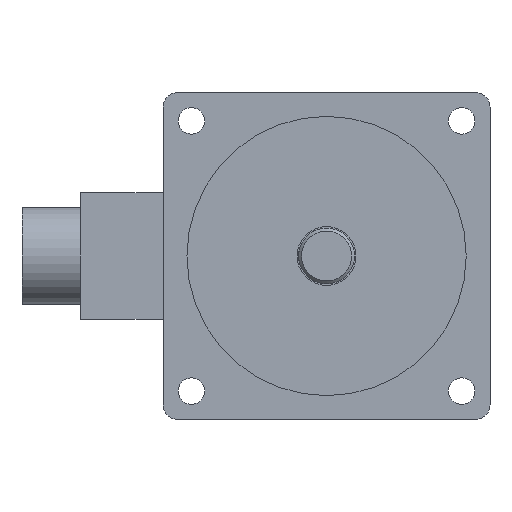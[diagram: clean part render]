
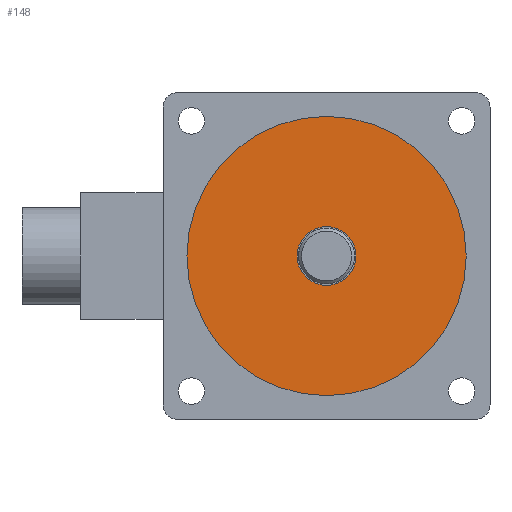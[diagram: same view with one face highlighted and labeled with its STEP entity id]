
A CAD part, left-side view. The second image highlights one B-rep face of the part: STEP entity #148.
In plain terms, the highlighted planar face has unit normal (-1, 0, 0).
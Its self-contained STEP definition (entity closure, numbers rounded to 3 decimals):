
#148=ADVANCED_FACE('',(#660,#662),#664,.T.);
#660=FACE_BOUND('',#661,.T.);
#661=EDGE_LOOP('',(#1071));
#662=FACE_BOUND('',#663,.T.);
#663=EDGE_LOOP('',(#1072));
#664=PLANE('',#665);
#665=AXIS2_PLACEMENT_3D('',#666,#667,#668);
#666=CARTESIAN_POINT('',(-5.,0.,0.));
#667=DIRECTION('',(-1.,-0.,-0.));
#668=DIRECTION('',(0.,0.,-1.));
#1071=ORIENTED_EDGE('',*,*,#1321,.T.);
#1072=ORIENTED_EDGE('',*,*,#1320,.F.);
#1320=EDGE_CURVE('',#1465,#1465,#1466,.T.);
#1321=EDGE_CURVE('',#1467,#1467,#1468,.T.);
#1465=VERTEX_POINT('',#1944);
#1466=CIRCLE('',#1945,10.);
#1467=VERTEX_POINT('',#1949);
#1468=CIRCLE('',#1950,47.5);
#1944=CARTESIAN_POINT('',(-5.,0.,-10.));
#1945=AXIS2_PLACEMENT_3D('',#1946,#1947,#1948);
#1946=CARTESIAN_POINT('',(-5.,0.,0.));
#1947=DIRECTION('',(-1.,-0.,-0.));
#1948=DIRECTION('',(0.,0.,-1.));
#1949=CARTESIAN_POINT('',(-5.,0.,-47.5));
#1950=AXIS2_PLACEMENT_3D('',#1951,#1952,#1953);
#1951=CARTESIAN_POINT('',(-5.,0.,0.));
#1952=DIRECTION('',(-1.,-0.,-0.));
#1953=DIRECTION('',(0.,0.,-1.));
